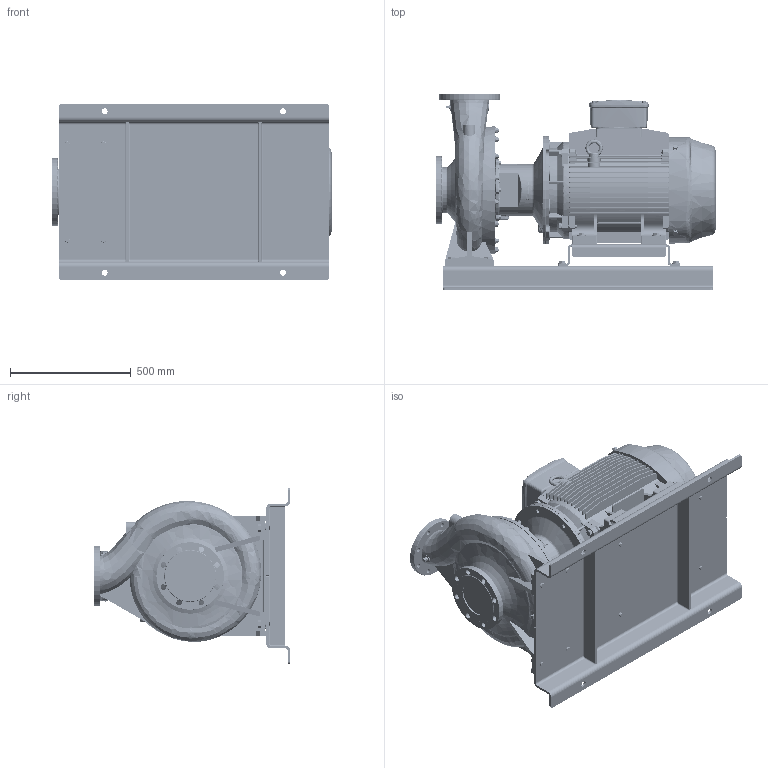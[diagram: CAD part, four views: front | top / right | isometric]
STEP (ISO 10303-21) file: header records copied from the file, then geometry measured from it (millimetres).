
FILE_DESCRIPTION (( 'STEP AP214' ), '1' );
FILE_NAME ('GSD4 125-400_37 & 45_(225SM)_W21_BP.STEP', '2026-05-08T03:38:24', ( '' ), ( '' ), 'SwSTEP 2.0', 'SolidWorks 2024', '' );
FILE_SCHEMA (( 'AUTOMOTIVE_DESIGN' ));
Length unit declared in the file: millimetre
Products named in the file (13): Parametric bolt and washer_SFT-A359B; Parametric bolt_SFT-A359B; Parametric bolt and washer_SFT-A351B; GSD4 125-400_37 & 45_(225SM)_W21_BP; Parametric bolt_SFT-A403B; Parametric bolt and washer_SFT-A403B; 125-400-225S_M_ﾃﾞﾌｫﾙﾄ; CGS11-5283; Parametric bolt_SFT-A351B; Parametric Flat Washer_M20; 225S_M4P IE3_W21T_B35; Parametric Flat Washer_M16; N9S4 GSDA-942 F1-1832974-00
Assembly tree (22 placements, depth 3):
  GSD4 125-400_37 & 45_(225SM)_W21_BP
    125-400-225S_M_ﾃﾞﾌｫﾙﾄ
    225S_M4P IE3_W21T_B35
    N9S4 GSDA-942 F1-1832974-00
    CGS11-5283
    Parametric bolt and washer_SFT-A359B  x4
      Parametric bolt_SFT-A359B
      Parametric Flat Washer_M16
    Parametric bolt and washer_SFT-A351B  x4
      Parametric bolt_SFT-A351B
      Parametric Flat Washer_M16
    Parametric bolt and washer_SFT-A403B  x4
      Parametric bolt_SFT-A403B
      Parametric Flat Washer_M20
Bounding box: 1164.5 x 815 x 730 mm (x, y, z)
Volume: 164478584 mm3; surface area: 7792255.5 mm2
Topology: 37 solids, 42 shells, 4586 faces, 12016 edges, 7662 vertices
Faces by surface type: plane 1835, cylinder 1589, cone 556, bspline 298, torus 290, sphere 18
Entity records: 176904 total; most frequent: CARTESIAN_POINT 81808, ORIENTED_EDGE 20710, DIRECTION 19004, EDGE_CURVE 10355, AXIS2_PLACEMENT_3D 7008, VERTEX_POINT 6591, LINE 4988, VECTOR 4988
